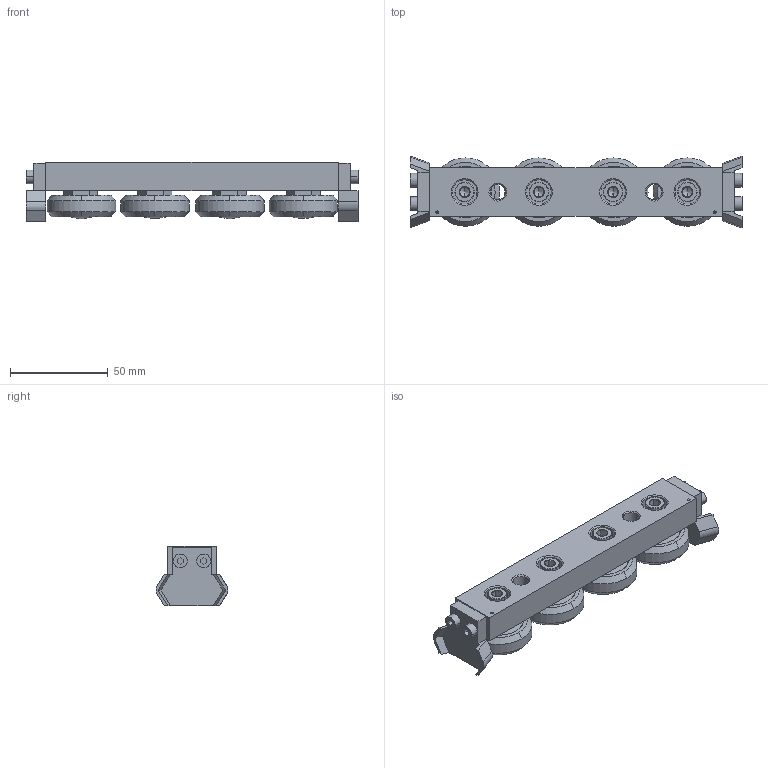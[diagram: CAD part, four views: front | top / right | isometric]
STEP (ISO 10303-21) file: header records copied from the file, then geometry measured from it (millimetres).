
FILE_DESCRIPTION (( 'STEP AP203' ), '1' );
FILE_NAME ('L1943.CSW43-150-2RSTA.step', '2019-03-13T08:16:52', ( '' ), ( '' ), 'SwSTEP 2.0', 'SolidWorks 2017', '' );
FILE_SCHEMA (( 'CONFIG_CONTROL_DESIGN' ));
Length unit declared in the file: millimetre
Products named in the file (6): Part5; Part1_L1943.CSW43-150-2RSTA; L1943.CSW43-150-2RSTA; Part4; Part6; Part8
Assembly tree (11 placements, depth 2):
  L1943.CSW43-150-2RSTA
    Part1_L1943.CSW43-150-2RSTA
    Part8  x4
    Part4  x2
    Part5  x2
    Part6  x2
Bounding box: 170 x 36.78 x 30.5 mm (x, y, z)
Volume: 99534.9 mm3; surface area: 35233.9 mm2
Topology: 11 solids, 11 shells, 404 faces, 908 edges, 558 vertices
Faces by surface type: plane 190, cone 128, cylinder 72, torus 8, bspline 6
Entity records: 6880 total; most frequent: CARTESIAN_POINT 1272, DIRECTION 1075, ORIENTED_EDGE 934, EDGE_CURVE 467, AXIS2_PLACEMENT_3D 408, VERTEX_POINT 297, LINE 259, VECTOR 259
